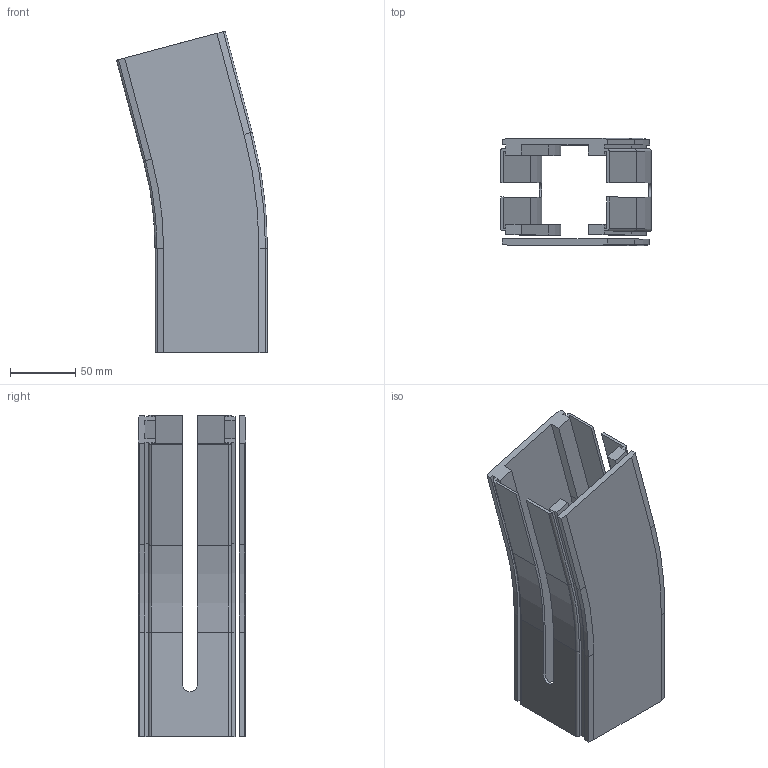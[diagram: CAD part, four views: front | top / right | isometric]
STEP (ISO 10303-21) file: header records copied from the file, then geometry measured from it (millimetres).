
FILE_DESCRIPTION((''),'2;1');
FILE_NAME('C:\Vault Klient\Projekt\Koncept konstruktion\Serie 530 Balk\530-5180.stp','2010-12-01T08:00:45',('Mathias'),(''),'Autodesk Inventor 2011','Autodesk Inventor 2011','');
FILE_SCHEMA(('AUTOMOTIVE_DESIGN { 1 0 10303 214 1 1 1 1 }'));
Length unit declared in the file: millimetre
Products named in the file (1): 530-5180
Bounding box: 115.46 x 82 x 246.05 mm (x, y, z)
Volume: 345199.5 mm3; surface area: 167166.5 mm2
Topology: 2 solids, 2 shells, 159 faces, 434 edges, 284 vertices
Faces by surface type: plane 103, cylinder 34, bspline 14, cone 4, torus 4
Entity records: 5158 total; most frequent: CARTESIAN_POINT 1072, ORIENTED_EDGE 868, DIRECTION 774, EDGE_CURVE 434, VECTOR 330, LINE 330, VERTEX_POINT 284, AXIS2_PLACEMENT_3D 222
